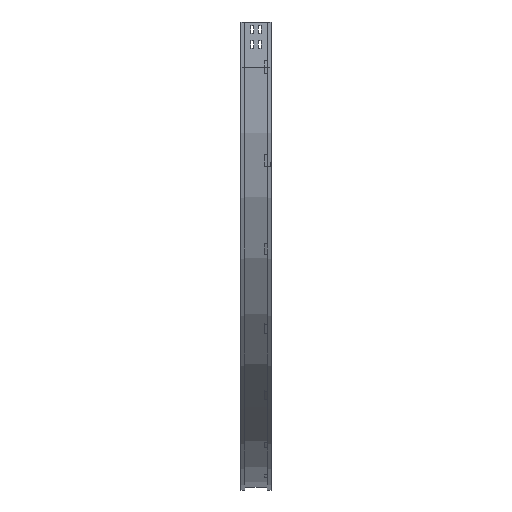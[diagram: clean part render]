
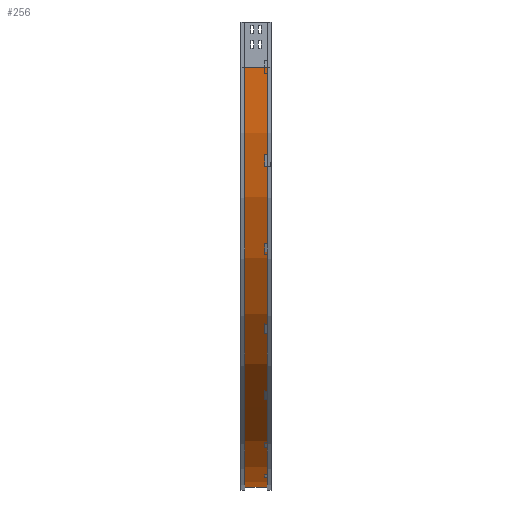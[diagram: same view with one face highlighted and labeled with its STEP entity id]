
A CAD part, left-side view. The second image highlights one B-rep face of the part: STEP entity #256.
In plain terms, the highlighted cylindrical face has radius 1400 mm (diameter 2800 mm), a partial arc.
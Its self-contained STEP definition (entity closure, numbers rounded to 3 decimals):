
#73 = DIRECTION ( 'NONE',  ( -1., 0., 0. ) ) ;
#165 = ORIENTED_EDGE ( 'NONE', *, *, #642, .F. ) ;
#256 = ADVANCED_FACE ( 'NONE', ( #619 ), #2698, .T. ) ;
#312 = CARTESIAN_POINT ( 'NONE',  ( 9., 88., -150. ) ) ;
#418 = CIRCLE ( 'NONE', #2424, 1400. ) ;
#599 = CARTESIAN_POINT ( 'NONE',  ( 1409., 0., -150. ) ) ;
#619 = FACE_OUTER_BOUND ( 'NONE', #805, .T. ) ;
#642 = EDGE_CURVE ( 'NONE', #1022, #3680, #4495, .T. ) ;
#707 = DIRECTION ( 'NONE',  ( 0., -1., 0. ) ) ;
#805 = EDGE_LOOP ( 'NONE', ( #2748, #165, #2310, #1114 ) ) ;
#944 = CARTESIAN_POINT ( 'NONE',  ( 1409., 12., -1550. ) ) ;
#1022 = VERTEX_POINT ( 'NONE', #312 ) ;
#1032 = DIRECTION ( 'NONE',  ( -1., 0., 0. ) ) ;
#1051 = VERTEX_POINT ( 'NONE', #1374 ) ;
#1111 = DIRECTION ( 'NONE',  ( 0., -1., 0. ) ) ;
#1114 = ORIENTED_EDGE ( 'NONE', *, *, #4475, .T. ) ;
#1132 = AXIS2_PLACEMENT_3D ( 'NONE', #599, #3066, #2032 ) ;
#1374 = CARTESIAN_POINT ( 'NONE',  ( 1409., 12., -1550. ) ) ;
#1685 = CARTESIAN_POINT ( 'NONE',  ( 9., 12., -150. ) ) ;
#1959 = VECTOR ( 'NONE', #2368, 1000. ) ;
#1985 = CARTESIAN_POINT ( 'NONE',  ( 1409., 88., -1550. ) ) ;
#2032 = DIRECTION ( 'NONE',  ( 0., 0., -1. ) ) ;
#2039 = AXIS2_PLACEMENT_3D ( 'NONE', #3539, #1111, #73 ) ;
#2310 = ORIENTED_EDGE ( 'NONE', *, *, #2954, .T. ) ;
#2368 = DIRECTION ( 'NONE',  ( 0., -1., 0. ) ) ;
#2424 = AXIS2_PLACEMENT_3D ( 'NONE', #2792, #4184, #1032 ) ;
#2698 = CYLINDRICAL_SURFACE ( 'NONE', #1132, 1400. ) ;
#2748 = ORIENTED_EDGE ( 'NONE', *, *, #4186, .F. ) ;
#2792 = CARTESIAN_POINT ( 'NONE',  ( 1409., 88., -150. ) ) ;
#2836 = VECTOR ( 'NONE', #707, 1000. ) ;
#2954 = EDGE_CURVE ( 'NONE', #1022, #3694, #418, .T. ) ;
#3066 = DIRECTION ( 'NONE',  ( 0., -1., 0. ) ) ;
#3436 = LINE ( 'NONE', #944, #1959 ) ;
#3539 = CARTESIAN_POINT ( 'NONE',  ( 1409., 12., -150. ) ) ;
#3680 = VERTEX_POINT ( 'NONE', #1685 ) ;
#3694 = VERTEX_POINT ( 'NONE', #1985 ) ;
#4184 = DIRECTION ( 'NONE',  ( 0., -1., 0. ) ) ;
#4186 = EDGE_CURVE ( 'NONE', #3680, #1051, #4369, .T. ) ;
#4369 = CIRCLE ( 'NONE', #2039, 1400. ) ;
#4475 = EDGE_CURVE ( 'NONE', #3694, #1051, #3436, .T. ) ;
#4495 = LINE ( 'NONE', #4542, #2836 ) ;
#4542 = CARTESIAN_POINT ( 'NONE',  ( 9., 12., -150. ) ) ;
